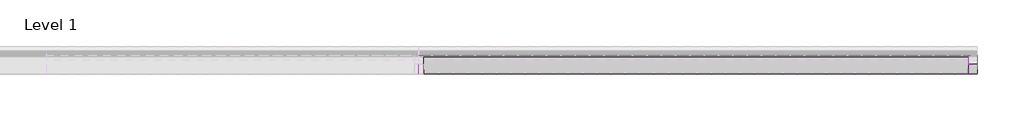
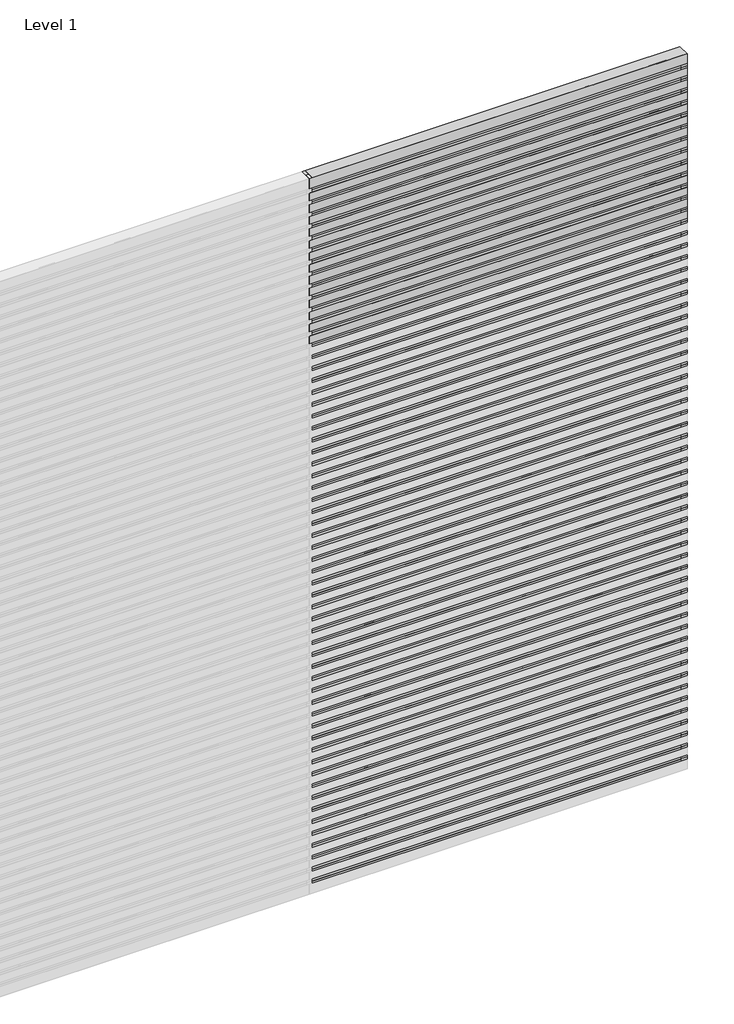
# One storey, part 4 of 4: 74 plates, 60 members.
"""IFC4 building model written with IfcOpenShell, lengths in millimetres."""

from ifc_helpers import new_model, si_unit, origin, place, context, project, spatial, transform, mapped, element, save
from components import rectangular_mullion_a3e25429, empty_system_panel_empty_03c9d606, empty_system_panel_empty_9aeebe66, empty_system_panel_empty_2f01619b

model = new_model("IFC4")

# Units and contexts
model_context = context("Model", 3, world=origin())
ifc_project = project(units=[si_unit("LENGTHUNIT", "METRE", prefix="MILLI")], contexts=[model_context])

# Site, building, storey
site = spatial("IfcSite", under=ifc_project)
building = spatial("IfcBuilding", under=site)
storey = spatial("IfcBuildingStorey", under=building, Name="Level 1", Elevation=0.0)

# Members
placement = place(None, origin())
rectangular_mullion_shape = rectangular_mullion_a3e25429(model_context)
element("IfcMember", 1, ObjectType="Rectangular Mullion : RSen_21_CWM_support profile 50x50 - right_gen_duco projects", at=placement, inside=storey, context=model_context, shape_type="MappedRepresentation", body=[
    mapped(rectangular_mullion_shape, transform((6000.0, 3000.0, 6000.0), x_axis=(1.0, 0.0, 0.0), y_axis=(0.0, 1.0, 0.0), z_axis=(0.0, 0.0, 1.0))),
])
element("IfcMember", 2, ObjectType="Rectangular Mullion : RSen_21_CWM_support profile 50x50 - right_gen_duco projects", at=placement, inside=storey, context=model_context, shape_type="MappedRepresentation", body=[
    mapped(rectangular_mullion_shape, transform((6000.0, 3000.0, 100.0), x_axis=(1.0, 0.0, 0.0), y_axis=(0.0, 1.0, 0.0), z_axis=(0.0, 0.0, 1.0))),
])
element("IfcMember", 3, ObjectType="Rectangular Mullion : RSen_21_CWM_support profile 50x50 - right_gen_duco projects", at=placement, inside=storey, context=model_context, shape_type="MappedRepresentation", body=[
    mapped(rectangular_mullion_shape, transform((6000.0, 3000.0, 200.0), x_axis=(1.0, 0.0, 0.0), y_axis=(0.0, 1.0, 0.0), z_axis=(0.0, 0.0, 1.0))),
])
element("IfcMember", 4, ObjectType="Rectangular Mullion : RSen_21_CWM_support profile 50x50 - right_gen_duco projects", at=placement, inside=storey, context=model_context, shape_type="MappedRepresentation", body=[
    mapped(rectangular_mullion_shape, transform((6000.0, 3000.0, 300.0), x_axis=(1.0, 0.0, 0.0), y_axis=(0.0, 1.0, 0.0), z_axis=(0.0, 0.0, 1.0))),
])
element("IfcMember", 5, ObjectType="Rectangular Mullion : RSen_21_CWM_support profile 50x50 - right_gen_duco projects", at=placement, inside=storey, context=model_context, shape_type="MappedRepresentation", body=[
    mapped(rectangular_mullion_shape, transform((6000.0, 3000.0, 400.0), x_axis=(1.0, 0.0, 0.0), y_axis=(0.0, 1.0, 0.0), z_axis=(0.0, 0.0, 1.0))),
])
element("IfcMember", 6, ObjectType="Rectangular Mullion : RSen_21_CWM_support profile 50x50 - right_gen_duco projects", at=placement, inside=storey, context=model_context, shape_type="MappedRepresentation", body=[
    mapped(rectangular_mullion_shape, transform((6000.0, 3000.0, 500.0), x_axis=(1.0, 0.0, 0.0), y_axis=(0.0, 1.0, 0.0), z_axis=(0.0, 0.0, 1.0))),
])
element("IfcMember", 7, ObjectType="Rectangular Mullion : RSen_21_CWM_support profile 50x50 - right_gen_duco projects", at=placement, inside=storey, context=model_context, shape_type="MappedRepresentation", body=[
    mapped(rectangular_mullion_shape, transform((6000.0, 3000.0, 600.0), x_axis=(1.0, 0.0, 0.0), y_axis=(0.0, 1.0, 0.0), z_axis=(0.0, 0.0, 1.0))),
])
element("IfcMember", 8, ObjectType="Rectangular Mullion : RSen_21_CWM_support profile 50x50 - right_gen_duco projects", at=placement, inside=storey, context=model_context, shape_type="MappedRepresentation", body=[
    mapped(rectangular_mullion_shape, transform((6000.0, 3000.0, 700.0), x_axis=(1.0, 0.0, 0.0), y_axis=(0.0, 1.0, 0.0), z_axis=(0.0, 0.0, 1.0))),
])
element("IfcMember", 9, ObjectType="Rectangular Mullion : RSen_21_CWM_support profile 50x50 - right_gen_duco projects", at=placement, inside=storey, context=model_context, shape_type="MappedRepresentation", body=[
    mapped(rectangular_mullion_shape, transform((6000.0, 3000.0, 800.0), x_axis=(1.0, 0.0, 0.0), y_axis=(0.0, 1.0, 0.0), z_axis=(0.0, 0.0, 1.0))),
])
element("IfcMember", 10, ObjectType="Rectangular Mullion : RSen_21_CWM_support profile 50x50 - right_gen_duco projects", at=placement, inside=storey, context=model_context, shape_type="MappedRepresentation", body=[
    mapped(rectangular_mullion_shape, transform((6000.0, 3000.0, 900.0), x_axis=(1.0, 0.0, 0.0), y_axis=(0.0, 1.0, 0.0), z_axis=(0.0, 0.0, 1.0))),
])
element("IfcMember", 11, ObjectType="Rectangular Mullion : RSen_21_CWM_support profile 50x50 - right_gen_duco projects", at=placement, inside=storey, context=model_context, shape_type="MappedRepresentation", body=[
    mapped(rectangular_mullion_shape, transform((6000.0, 3000.0, 1000.0), x_axis=(1.0, 0.0, 0.0), y_axis=(0.0, 1.0, 0.0), z_axis=(0.0, 0.0, 1.0))),
])
element("IfcMember", 12, ObjectType="Rectangular Mullion : RSen_21_CWM_support profile 50x50 - right_gen_duco projects", at=placement, inside=storey, context=model_context, shape_type="MappedRepresentation", body=[
    mapped(rectangular_mullion_shape, transform((6000.0, 3000.0, 1100.0), x_axis=(1.0, 0.0, 0.0), y_axis=(0.0, 1.0, 0.0), z_axis=(0.0, 0.0, 1.0))),
])
element("IfcMember", 13, ObjectType="Rectangular Mullion : RSen_21_CWM_support profile 50x50 - right_gen_duco projects", at=placement, inside=storey, context=model_context, shape_type="MappedRepresentation", body=[
    mapped(rectangular_mullion_shape, transform((6000.0, 3000.0, 1200.0), x_axis=(1.0, 0.0, 0.0), y_axis=(0.0, 1.0, 0.0), z_axis=(0.0, 0.0, 1.0))),
])
element("IfcMember", 14, ObjectType="Rectangular Mullion : RSen_21_CWM_support profile 50x50 - right_gen_duco projects", at=placement, inside=storey, context=model_context, shape_type="MappedRepresentation", body=[
    mapped(rectangular_mullion_shape, transform((6000.0, 3000.0, 1300.0), x_axis=(1.0, 0.0, 0.0), y_axis=(0.0, 1.0, 0.0), z_axis=(0.0, 0.0, 1.0))),
])
element("IfcMember", 15, ObjectType="Rectangular Mullion : RSen_21_CWM_support profile 50x50 - right_gen_duco projects", at=placement, inside=storey, context=model_context, shape_type="MappedRepresentation", body=[
    mapped(rectangular_mullion_shape, transform((6000.0, 3000.0, 1400.0), x_axis=(1.0, 0.0, 0.0), y_axis=(0.0, 1.0, 0.0), z_axis=(0.0, 0.0, 1.0))),
])
element("IfcMember", 16, ObjectType="Rectangular Mullion : RSen_21_CWM_support profile 50x50 - right_gen_duco projects", at=placement, inside=storey, context=model_context, shape_type="MappedRepresentation", body=[
    mapped(rectangular_mullion_shape, transform((6000.0, 3000.0, 1500.0), x_axis=(1.0, 0.0, 0.0), y_axis=(0.0, 1.0, 0.0), z_axis=(0.0, 0.0, 1.0))),
])
element("IfcMember", 17, ObjectType="Rectangular Mullion : RSen_21_CWM_support profile 50x50 - right_gen_duco projects", at=placement, inside=storey, context=model_context, shape_type="MappedRepresentation", body=[
    mapped(rectangular_mullion_shape, transform((6000.0, 3000.0, 1600.0), x_axis=(1.0, 0.0, 0.0), y_axis=(0.0, 1.0, 0.0), z_axis=(0.0, 0.0, 1.0))),
])
element("IfcMember", 18, ObjectType="Rectangular Mullion : RSen_21_CWM_support profile 50x50 - right_gen_duco projects", at=placement, inside=storey, context=model_context, shape_type="MappedRepresentation", body=[
    mapped(rectangular_mullion_shape, transform((6000.0, 3000.0, 1700.0), x_axis=(1.0, 0.0, 0.0), y_axis=(0.0, 1.0, 0.0), z_axis=(0.0, 0.0, 1.0))),
])
element("IfcMember", 19, ObjectType="Rectangular Mullion : RSen_21_CWM_support profile 50x50 - right_gen_duco projects", at=placement, inside=storey, context=model_context, shape_type="MappedRepresentation", body=[
    mapped(rectangular_mullion_shape, transform((6000.0, 3000.0, 1800.0), x_axis=(1.0, 0.0, 0.0), y_axis=(0.0, 1.0, 0.0), z_axis=(0.0, 0.0, 1.0))),
])
element("IfcMember", 20, ObjectType="Rectangular Mullion : RSen_21_CWM_support profile 50x50 - right_gen_duco projects", at=placement, inside=storey, context=model_context, shape_type="MappedRepresentation", body=[
    mapped(rectangular_mullion_shape, transform((6000.0, 3000.0, 1900.0), x_axis=(1.0, 0.0, 0.0), y_axis=(0.0, 1.0, 0.0), z_axis=(0.0, 0.0, 1.0))),
])
element("IfcMember", 21, ObjectType="Rectangular Mullion : RSen_21_CWM_support profile 50x50 - right_gen_duco projects", at=placement, inside=storey, context=model_context, shape_type="MappedRepresentation", body=[
    mapped(rectangular_mullion_shape, transform((6000.0, 3000.0, 2000.0), x_axis=(1.0, 0.0, 0.0), y_axis=(0.0, 1.0, 0.0), z_axis=(0.0, 0.0, 1.0))),
])
element("IfcMember", 22, ObjectType="Rectangular Mullion : RSen_21_CWM_support profile 50x50 - right_gen_duco projects", at=placement, inside=storey, context=model_context, shape_type="MappedRepresentation", body=[
    mapped(rectangular_mullion_shape, transform((6000.0, 3000.0, 2100.0), x_axis=(1.0, 0.0, 0.0), y_axis=(0.0, 1.0, 0.0), z_axis=(0.0, 0.0, 1.0))),
])
element("IfcMember", 23, ObjectType="Rectangular Mullion : RSen_21_CWM_support profile 50x50 - right_gen_duco projects", at=placement, inside=storey, context=model_context, shape_type="MappedRepresentation", body=[
    mapped(rectangular_mullion_shape, transform((6000.0, 3000.0, 2200.0), x_axis=(1.0, 0.0, 0.0), y_axis=(0.0, 1.0, 0.0), z_axis=(0.0, 0.0, 1.0))),
])
element("IfcMember", 24, ObjectType="Rectangular Mullion : RSen_21_CWM_support profile 50x50 - right_gen_duco projects", at=placement, inside=storey, context=model_context, shape_type="MappedRepresentation", body=[
    mapped(rectangular_mullion_shape, transform((6000.0, 3000.0, 2300.0), x_axis=(1.0, 0.0, 0.0), y_axis=(0.0, 1.0, 0.0), z_axis=(0.0, 0.0, 1.0))),
])
element("IfcMember", 25, ObjectType="Rectangular Mullion : RSen_21_CWM_support profile 50x50 - right_gen_duco projects", at=placement, inside=storey, context=model_context, shape_type="MappedRepresentation", body=[
    mapped(rectangular_mullion_shape, transform((6000.0, 3000.0, 2400.0), x_axis=(1.0, 0.0, 0.0), y_axis=(0.0, 1.0, 0.0), z_axis=(0.0, 0.0, 1.0))),
])
element("IfcMember", 26, ObjectType="Rectangular Mullion : RSen_21_CWM_support profile 50x50 - right_gen_duco projects", at=placement, inside=storey, context=model_context, shape_type="MappedRepresentation", body=[
    mapped(rectangular_mullion_shape, transform((6000.0, 3000.0, 2500.0), x_axis=(1.0, 0.0, 0.0), y_axis=(0.0, 1.0, 0.0), z_axis=(0.0, 0.0, 1.0))),
])
element("IfcMember", 27, ObjectType="Rectangular Mullion : RSen_21_CWM_support profile 50x50 - right_gen_duco projects", at=placement, inside=storey, context=model_context, shape_type="MappedRepresentation", body=[
    mapped(rectangular_mullion_shape, transform((6000.0, 3000.0, 2600.0), x_axis=(1.0, 0.0, 0.0), y_axis=(0.0, 1.0, 0.0), z_axis=(0.0, 0.0, 1.0))),
])
element("IfcMember", 28, ObjectType="Rectangular Mullion : RSen_21_CWM_support profile 50x50 - right_gen_duco projects", at=placement, inside=storey, context=model_context, shape_type="MappedRepresentation", body=[
    mapped(rectangular_mullion_shape, transform((6000.0, 3000.0, 2700.0), x_axis=(1.0, 0.0, 0.0), y_axis=(0.0, 1.0, 0.0), z_axis=(0.0, 0.0, 1.0))),
])
element("IfcMember", 29, ObjectType="Rectangular Mullion : RSen_21_CWM_support profile 50x50 - right_gen_duco projects", at=placement, inside=storey, context=model_context, shape_type="MappedRepresentation", body=[
    mapped(rectangular_mullion_shape, transform((6000.0, 3000.0, 2800.0), x_axis=(1.0, 0.0, 0.0), y_axis=(0.0, 1.0, 0.0), z_axis=(0.0, 0.0, 1.0))),
])
element("IfcMember", 30, ObjectType="Rectangular Mullion : RSen_21_CWM_support profile 50x50 - right_gen_duco projects", at=placement, inside=storey, context=model_context, shape_type="MappedRepresentation", body=[
    mapped(rectangular_mullion_shape, transform((6000.0, 3000.0, 2900.0), x_axis=(1.0, 0.0, 0.0), y_axis=(0.0, 1.0, 0.0), z_axis=(0.0, 0.0, 1.0))),
])
element("IfcMember", 31, ObjectType="Rectangular Mullion : RSen_21_CWM_support profile 50x50 - right_gen_duco projects", at=placement, inside=storey, context=model_context, shape_type="MappedRepresentation", body=[
    mapped(rectangular_mullion_shape, transform((6000.0, 3000.0, 3000.0), x_axis=(1.0, 0.0, 0.0), y_axis=(0.0, 1.0, 0.0), z_axis=(0.0, 0.0, 1.0))),
])
element("IfcMember", 32, ObjectType="Rectangular Mullion : RSen_21_CWM_support profile 50x50 - right_gen_duco projects", at=placement, inside=storey, context=model_context, shape_type="MappedRepresentation", body=[
    mapped(rectangular_mullion_shape, transform((6000.0, 3000.0, 3100.0), x_axis=(1.0, 0.0, 0.0), y_axis=(0.0, 1.0, 0.0), z_axis=(0.0, 0.0, 1.0))),
])
element("IfcMember", 33, ObjectType="Rectangular Mullion : RSen_21_CWM_support profile 50x50 - right_gen_duco projects", at=placement, inside=storey, context=model_context, shape_type="MappedRepresentation", body=[
    mapped(rectangular_mullion_shape, transform((6000.0, 3000.0, 3200.0), x_axis=(1.0, 0.0, 0.0), y_axis=(0.0, 1.0, 0.0), z_axis=(0.0, 0.0, 1.0))),
])
element("IfcMember", 34, ObjectType="Rectangular Mullion : RSen_21_CWM_support profile 50x50 - right_gen_duco projects", at=placement, inside=storey, context=model_context, shape_type="MappedRepresentation", body=[
    mapped(rectangular_mullion_shape, transform((6000.0, 3000.0, 3300.0), x_axis=(1.0, 0.0, 0.0), y_axis=(0.0, 1.0, 0.0), z_axis=(0.0, 0.0, 1.0))),
])
element("IfcMember", 35, ObjectType="Rectangular Mullion : RSen_21_CWM_support profile 50x50 - right_gen_duco projects", at=placement, inside=storey, context=model_context, shape_type="MappedRepresentation", body=[
    mapped(rectangular_mullion_shape, transform((6000.0, 3000.0, 3400.0), x_axis=(1.0, 0.0, 0.0), y_axis=(0.0, 1.0, 0.0), z_axis=(0.0, 0.0, 1.0))),
])
element("IfcMember", 36, ObjectType="Rectangular Mullion : RSen_21_CWM_support profile 50x50 - right_gen_duco projects", at=placement, inside=storey, context=model_context, shape_type="MappedRepresentation", body=[
    mapped(rectangular_mullion_shape, transform((6000.0, 3000.0, 3500.0), x_axis=(1.0, 0.0, 0.0), y_axis=(0.0, 1.0, 0.0), z_axis=(0.0, 0.0, 1.0))),
])
element("IfcMember", 37, ObjectType="Rectangular Mullion : RSen_21_CWM_support profile 50x50 - right_gen_duco projects", at=placement, inside=storey, context=model_context, shape_type="MappedRepresentation", body=[
    mapped(rectangular_mullion_shape, transform((6000.0, 3000.0, 3600.0), x_axis=(1.0, 0.0, 0.0), y_axis=(0.0, 1.0, 0.0), z_axis=(0.0, 0.0, 1.0))),
])
element("IfcMember", 38, ObjectType="Rectangular Mullion : RSen_21_CWM_support profile 50x50 - right_gen_duco projects", at=placement, inside=storey, context=model_context, shape_type="MappedRepresentation", body=[
    mapped(rectangular_mullion_shape, transform((6000.0, 3000.0, 3700.0), x_axis=(1.0, 0.0, 0.0), y_axis=(0.0, 1.0, 0.0), z_axis=(0.0, 0.0, 1.0))),
])
element("IfcMember", 39, ObjectType="Rectangular Mullion : RSen_21_CWM_support profile 50x50 - right_gen_duco projects", at=placement, inside=storey, context=model_context, shape_type="MappedRepresentation", body=[
    mapped(rectangular_mullion_shape, transform((6000.0, 3000.0, 3800.0), x_axis=(1.0, 0.0, 0.0), y_axis=(0.0, 1.0, 0.0), z_axis=(0.0, 0.0, 1.0))),
])
element("IfcMember", 40, ObjectType="Rectangular Mullion : RSen_21_CWM_support profile 50x50 - right_gen_duco projects", at=placement, inside=storey, context=model_context, shape_type="MappedRepresentation", body=[
    mapped(rectangular_mullion_shape, transform((6000.0, 3000.0, 3900.0), x_axis=(1.0, 0.0, 0.0), y_axis=(0.0, 1.0, 0.0), z_axis=(0.0, 0.0, 1.0))),
])
element("IfcMember", 41, ObjectType="Rectangular Mullion : RSen_21_CWM_support profile 50x50 - right_gen_duco projects", at=placement, inside=storey, context=model_context, shape_type="MappedRepresentation", body=[
    mapped(rectangular_mullion_shape, transform((6000.0, 3000.0, 4000.0), x_axis=(1.0, 0.0, 0.0), y_axis=(0.0, 1.0, 0.0), z_axis=(0.0, 0.0, 1.0))),
])
element("IfcMember", 42, ObjectType="Rectangular Mullion : RSen_21_CWM_support profile 50x50 - right_gen_duco projects", at=placement, inside=storey, context=model_context, shape_type="MappedRepresentation", body=[
    mapped(rectangular_mullion_shape, transform((6000.0, 3000.0, 4100.0), x_axis=(1.0, 0.0, 0.0), y_axis=(0.0, 1.0, 0.0), z_axis=(0.0, 0.0, 1.0))),
])
element("IfcMember", 43, ObjectType="Rectangular Mullion : RSen_21_CWM_support profile 50x50 - right_gen_duco projects", at=placement, inside=storey, context=model_context, shape_type="MappedRepresentation", body=[
    mapped(rectangular_mullion_shape, transform((6000.0, 3000.0, 4200.0), x_axis=(1.0, 0.0, 0.0), y_axis=(0.0, 1.0, 0.0), z_axis=(0.0, 0.0, 1.0))),
])
element("IfcMember", 44, ObjectType="Rectangular Mullion : RSen_21_CWM_support profile 50x50 - right_gen_duco projects", at=placement, inside=storey, context=model_context, shape_type="MappedRepresentation", body=[
    mapped(rectangular_mullion_shape, transform((6000.0, 3000.0, 4300.0), x_axis=(1.0, 0.0, 0.0), y_axis=(0.0, 1.0, 0.0), z_axis=(0.0, 0.0, 1.0))),
])
element("IfcMember", 45, ObjectType="Rectangular Mullion : RSen_21_CWM_support profile 50x50 - right_gen_duco projects", at=placement, inside=storey, context=model_context, shape_type="MappedRepresentation", body=[
    mapped(rectangular_mullion_shape, transform((6000.0, 3000.0, 4400.0), x_axis=(1.0, 0.0, 0.0), y_axis=(0.0, 1.0, 0.0), z_axis=(0.0, 0.0, 1.0))),
])
element("IfcMember", 46, ObjectType="Rectangular Mullion : RSen_21_CWM_support profile 50x50 - right_gen_duco projects", at=placement, inside=storey, context=model_context, shape_type="MappedRepresentation", body=[
    mapped(rectangular_mullion_shape, transform((6000.0, 3000.0, 4500.0), x_axis=(1.0, 0.0, 0.0), y_axis=(0.0, 1.0, 0.0), z_axis=(0.0, 0.0, 1.0))),
])
element("IfcMember", 47, ObjectType="Rectangular Mullion : RSen_21_CWM_support profile 50x50 - right_gen_duco projects", at=placement, inside=storey, context=model_context, shape_type="MappedRepresentation", body=[
    mapped(rectangular_mullion_shape, transform((6000.0, 3000.0, 4600.0), x_axis=(1.0, 0.0, 0.0), y_axis=(0.0, 1.0, 0.0), z_axis=(0.0, 0.0, 1.0))),
])
element("IfcMember", 48, ObjectType="Rectangular Mullion : RSen_21_CWM_support profile 50x50 - right_gen_duco projects", at=placement, inside=storey, context=model_context, shape_type="MappedRepresentation", body=[
    mapped(rectangular_mullion_shape, transform((6000.0, 3000.0, 4700.0), x_axis=(1.0, 0.0, 0.0), y_axis=(0.0, 1.0, 0.0), z_axis=(0.0, 0.0, 1.0))),
])
element("IfcMember", 49, ObjectType="Rectangular Mullion : RSen_21_CWM_support profile 50x50 - right_gen_duco projects", at=placement, inside=storey, context=model_context, shape_type="MappedRepresentation", body=[
    mapped(rectangular_mullion_shape, transform((6000.0, 3000.0, 4800.0), x_axis=(1.0, 0.0, 0.0), y_axis=(0.0, 1.0, 0.0), z_axis=(0.0, 0.0, 1.0))),
])
element("IfcMember", 50, ObjectType="Rectangular Mullion : RSen_21_CWM_support profile 50x50 - right_gen_duco projects", at=placement, inside=storey, context=model_context, shape_type="MappedRepresentation", body=[
    mapped(rectangular_mullion_shape, transform((6000.0, 3000.0, 4900.0), x_axis=(1.0, 0.0, 0.0), y_axis=(0.0, 1.0, 0.0), z_axis=(0.0, 0.0, 1.0))),
])
element("IfcMember", 51, ObjectType="Rectangular Mullion : RSen_21_CWM_support profile 50x50 - right_gen_duco projects", at=placement, inside=storey, context=model_context, shape_type="MappedRepresentation", body=[
    mapped(rectangular_mullion_shape, transform((6000.0, 3000.0, 5000.0), x_axis=(1.0, 0.0, 0.0), y_axis=(0.0, 1.0, 0.0), z_axis=(0.0, 0.0, 1.0))),
])
element("IfcMember", 52, ObjectType="Rectangular Mullion : RSen_21_CWM_support profile 50x50 - right_gen_duco projects", at=placement, inside=storey, context=model_context, shape_type="MappedRepresentation", body=[
    mapped(rectangular_mullion_shape, transform((6000.0, 3000.0, 5100.0), x_axis=(1.0, 0.0, 0.0), y_axis=(0.0, 1.0, 0.0), z_axis=(0.0, 0.0, 1.0))),
])
element("IfcMember", 53, ObjectType="Rectangular Mullion : RSen_21_CWM_support profile 50x50 - right_gen_duco projects", at=placement, inside=storey, context=model_context, shape_type="MappedRepresentation", body=[
    mapped(rectangular_mullion_shape, transform((6000.0, 3000.0, 5200.0), x_axis=(1.0, 0.0, 0.0), y_axis=(0.0, 1.0, 0.0), z_axis=(0.0, 0.0, 1.0))),
])
element("IfcMember", 54, ObjectType="Rectangular Mullion : RSen_21_CWM_support profile 50x50 - right_gen_duco projects", at=placement, inside=storey, context=model_context, shape_type="MappedRepresentation", body=[
    mapped(rectangular_mullion_shape, transform((6000.0, 3000.0, 5300.0), x_axis=(1.0, 0.0, 0.0), y_axis=(0.0, 1.0, 0.0), z_axis=(0.0, 0.0, 1.0))),
])
element("IfcMember", 55, ObjectType="Rectangular Mullion : RSen_21_CWM_support profile 50x50 - right_gen_duco projects", at=placement, inside=storey, context=model_context, shape_type="MappedRepresentation", body=[
    mapped(rectangular_mullion_shape, transform((6000.0, 3000.0, 5400.0), x_axis=(1.0, 0.0, 0.0), y_axis=(0.0, 1.0, 0.0), z_axis=(0.0, 0.0, 1.0))),
])
element("IfcMember", 56, ObjectType="Rectangular Mullion : RSen_21_CWM_support profile 50x50 - right_gen_duco projects", at=placement, inside=storey, context=model_context, shape_type="MappedRepresentation", body=[
    mapped(rectangular_mullion_shape, transform((6000.0, 3000.0, 5500.0), x_axis=(1.0, 0.0, 0.0), y_axis=(0.0, 1.0, 0.0), z_axis=(0.0, 0.0, 1.0))),
])
element("IfcMember", 57, ObjectType="Rectangular Mullion : RSen_21_CWM_support profile 50x50 - right_gen_duco projects", at=placement, inside=storey, context=model_context, shape_type="MappedRepresentation", body=[
    mapped(rectangular_mullion_shape, transform((6000.0, 3000.0, 5600.0), x_axis=(1.0, 0.0, 0.0), y_axis=(0.0, 1.0, 0.0), z_axis=(0.0, 0.0, 1.0))),
])
element("IfcMember", 58, ObjectType="Rectangular Mullion : RSen_21_CWM_support profile 50x50 - right_gen_duco projects", at=placement, inside=storey, context=model_context, shape_type="MappedRepresentation", body=[
    mapped(rectangular_mullion_shape, transform((6000.0, 3000.0, 5700.0), x_axis=(1.0, 0.0, 0.0), y_axis=(0.0, 1.0, 0.0), z_axis=(0.0, 0.0, 1.0))),
])
element("IfcMember", 59, ObjectType="Rectangular Mullion : RSen_21_CWM_support profile 50x50 - right_gen_duco projects", at=placement, inside=storey, context=model_context, shape_type="MappedRepresentation", body=[
    mapped(rectangular_mullion_shape, transform((6000.0, 3000.0, 5800.0), x_axis=(1.0, 0.0, 0.0), y_axis=(0.0, 1.0, 0.0), z_axis=(0.0, 0.0, 1.0))),
])
element("IfcMember", 60, ObjectType="Rectangular Mullion : RSen_21_CWM_support profile 50x50 - right_gen_duco projects", at=placement, inside=storey, context=model_context, shape_type="MappedRepresentation", body=[
    mapped(rectangular_mullion_shape, transform((6000.0, 3000.0, 5900.0), x_axis=(1.0, 0.0, 0.0), y_axis=(0.0, 1.0, 0.0), z_axis=(0.0, 0.0, 1.0))),
])

# Plates
empty_system_panel_empty_shape = empty_system_panel_empty_03c9d606(model_context)
element("IfcPlate", 61, ObjectType="Empty System Panel : Empty", at=placement, inside=storey, context=model_context, shape_type="MappedRepresentation", body=[
    mapped(empty_system_panel_empty_shape, transform((4500.0, 3000.0, 5918.3847763), x_axis=(-1.0, 0.0, 0.0), y_axis=(0.0, -1.0, 0.0), z_axis=(0.0, 0.0, 1.0))),
])
empty_system_panel_empty_2_shape = empty_system_panel_empty_9aeebe66(model_context)
element("IfcPlate", 62, ObjectType="Empty System Panel : Empty", at=placement, inside=storey, context=model_context, shape_type="MappedRepresentation", body=[
    mapped(empty_system_panel_empty_2_shape, transform((4500.0, 3000.0, 4618.3847763), x_axis=(-1.0, 0.0, 0.0), y_axis=(0.0, -1.0, 0.0), z_axis=(0.0, 0.0, 1.0))),
])
element("IfcPlate", 63, ObjectType="Empty System Panel : Empty", at=placement, inside=storey, context=model_context, shape_type="MappedRepresentation", body=[
    mapped(empty_system_panel_empty_2_shape, transform((4500.0, 3000.0, 4718.3847763), x_axis=(-1.0, 0.0, 0.0), y_axis=(0.0, -1.0, 0.0), z_axis=(0.0, 0.0, 1.0))),
])
element("IfcPlate", 64, ObjectType="Empty System Panel : Empty", at=placement, inside=storey, context=model_context, shape_type="MappedRepresentation", body=[
    mapped(empty_system_panel_empty_2_shape, transform((4500.0, 3000.0, 4818.3847763), x_axis=(-1.0, 0.0, 0.0), y_axis=(0.0, -1.0, 0.0), z_axis=(0.0, 0.0, 1.0))),
])
element("IfcPlate", 65, ObjectType="Empty System Panel : Empty", at=placement, inside=storey, context=model_context, shape_type="MappedRepresentation", body=[
    mapped(empty_system_panel_empty_2_shape, transform((4500.0, 3000.0, 4918.3847763), x_axis=(-1.0, 0.0, 0.0), y_axis=(0.0, -1.0, 0.0), z_axis=(0.0, 0.0, 1.0))),
])
element("IfcPlate", 66, ObjectType="Empty System Panel : Empty", at=placement, inside=storey, context=model_context, shape_type="MappedRepresentation", body=[
    mapped(empty_system_panel_empty_2_shape, transform((4500.0, 3000.0, 5018.3847763), x_axis=(-1.0, 0.0, 0.0), y_axis=(0.0, -1.0, 0.0), z_axis=(0.0, 0.0, 1.0))),
])
element("IfcPlate", 67, ObjectType="Empty System Panel : Empty", at=placement, inside=storey, context=model_context, shape_type="MappedRepresentation", body=[
    mapped(empty_system_panel_empty_2_shape, transform((4500.0, 3000.0, 5118.3847763), x_axis=(-1.0, 0.0, 0.0), y_axis=(0.0, -1.0, 0.0), z_axis=(0.0, 0.0, 1.0))),
])
element("IfcPlate", 68, ObjectType="Empty System Panel : Empty", at=placement, inside=storey, context=model_context, shape_type="MappedRepresentation", body=[
    mapped(empty_system_panel_empty_2_shape, transform((4500.0, 3000.0, 5218.3847763), x_axis=(-1.0, 0.0, 0.0), y_axis=(0.0, -1.0, 0.0), z_axis=(0.0, 0.0, 1.0))),
])
element("IfcPlate", 69, ObjectType="Empty System Panel : Empty", at=placement, inside=storey, context=model_context, shape_type="MappedRepresentation", body=[
    mapped(empty_system_panel_empty_2_shape, transform((4500.0, 3000.0, 5318.3847763), x_axis=(-1.0, 0.0, 0.0), y_axis=(0.0, -1.0, 0.0), z_axis=(0.0, 0.0, 1.0))),
])
element("IfcPlate", 70, ObjectType="Empty System Panel : Empty", at=placement, inside=storey, context=model_context, shape_type="MappedRepresentation", body=[
    mapped(empty_system_panel_empty_2_shape, transform((4500.0, 3000.0, 5418.3847763), x_axis=(-1.0, 0.0, 0.0), y_axis=(0.0, -1.0, 0.0), z_axis=(0.0, 0.0, 1.0))),
])
element("IfcPlate", 71, ObjectType="Empty System Panel : Empty", at=placement, inside=storey, context=model_context, shape_type="MappedRepresentation", body=[
    mapped(empty_system_panel_empty_2_shape, transform((4500.0, 3000.0, 5518.3847763), x_axis=(-1.0, 0.0, 0.0), y_axis=(0.0, -1.0, 0.0), z_axis=(0.0, 0.0, 1.0))),
])
element("IfcPlate", 72, ObjectType="Empty System Panel : Empty", at=placement, inside=storey, context=model_context, shape_type="MappedRepresentation", body=[
    mapped(empty_system_panel_empty_2_shape, transform((4500.0, 3000.0, 5618.3847763), x_axis=(-1.0, 0.0, 0.0), y_axis=(0.0, -1.0, 0.0), z_axis=(0.0, 0.0, 1.0))),
])
element("IfcPlate", 73, ObjectType="Empty System Panel : Empty", at=placement, inside=storey, context=model_context, shape_type="MappedRepresentation", body=[
    mapped(empty_system_panel_empty_2_shape, transform((4500.0, 3000.0, 5718.3847763), x_axis=(-1.0, 0.0, 0.0), y_axis=(0.0, -1.0, 0.0), z_axis=(0.0, 0.0, 1.0))),
])
element("IfcPlate", 74, ObjectType="Empty System Panel : Empty", at=placement, inside=storey, context=model_context, shape_type="MappedRepresentation", body=[
    mapped(empty_system_panel_empty_2_shape, transform((4500.0, 3000.0, 5818.3847763), x_axis=(-1.0, 0.0, 0.0), y_axis=(0.0, -1.0, 0.0), z_axis=(0.0, 0.0, 1.0))),
])
empty_system_panel_empty_3_shape = empty_system_panel_empty_2f01619b(model_context)
element("IfcPlate", 75, ObjectType="Empty System Panel : Empty", at=placement, inside=storey, context=model_context, shape_type="MappedRepresentation", body=[
    mapped(empty_system_panel_empty_3_shape, transform((4487.5, 3000.0, 0.0), x_axis=(-1.0, 0.0, 0.0), y_axis=(0.0, -1.0, 0.0), z_axis=(0.0, 0.0, 1.0))),
])
element("IfcPlate", 76, ObjectType="Empty System Panel : Empty", at=placement, inside=storey, context=model_context, shape_type="MappedRepresentation", body=[
    mapped(empty_system_panel_empty_3_shape, transform((4487.5, 3000.0, 100.0), x_axis=(-1.0, 0.0, 0.0), y_axis=(0.0, -1.0, 0.0), z_axis=(0.0, 0.0, 1.0))),
])
element("IfcPlate", 77, ObjectType="Empty System Panel : Empty", at=placement, inside=storey, context=model_context, shape_type="MappedRepresentation", body=[
    mapped(empty_system_panel_empty_3_shape, transform((4487.5, 3000.0, 200.0), x_axis=(-1.0, 0.0, 0.0), y_axis=(0.0, -1.0, 0.0), z_axis=(0.0, 0.0, 1.0))),
])
element("IfcPlate", 78, ObjectType="Empty System Panel : Empty", at=placement, inside=storey, context=model_context, shape_type="MappedRepresentation", body=[
    mapped(empty_system_panel_empty_3_shape, transform((4487.5, 3000.0, 300.0), x_axis=(-1.0, 0.0, 0.0), y_axis=(0.0, -1.0, 0.0), z_axis=(0.0, 0.0, 1.0))),
])
element("IfcPlate", 79, ObjectType="Empty System Panel : Empty", at=placement, inside=storey, context=model_context, shape_type="MappedRepresentation", body=[
    mapped(empty_system_panel_empty_3_shape, transform((4487.5, 3000.0, 400.0), x_axis=(-1.0, 0.0, 0.0), y_axis=(0.0, -1.0, 0.0), z_axis=(0.0, 0.0, 1.0))),
])
element("IfcPlate", 80, ObjectType="Empty System Panel : Empty", at=placement, inside=storey, context=model_context, shape_type="MappedRepresentation", body=[
    mapped(empty_system_panel_empty_3_shape, transform((4487.5, 3000.0, 500.0), x_axis=(-1.0, 0.0, 0.0), y_axis=(0.0, -1.0, 0.0), z_axis=(0.0, 0.0, 1.0))),
])
element("IfcPlate", 81, ObjectType="Empty System Panel : Empty", at=placement, inside=storey, context=model_context, shape_type="MappedRepresentation", body=[
    mapped(empty_system_panel_empty_3_shape, transform((4487.5, 3000.0, 600.0), x_axis=(-1.0, 0.0, 0.0), y_axis=(0.0, -1.0, 0.0), z_axis=(0.0, 0.0, 1.0))),
])
element("IfcPlate", 82, ObjectType="Empty System Panel : Empty", at=placement, inside=storey, context=model_context, shape_type="MappedRepresentation", body=[
    mapped(empty_system_panel_empty_3_shape, transform((4487.5, 3000.0, 700.0), x_axis=(-1.0, 0.0, 0.0), y_axis=(0.0, -1.0, 0.0), z_axis=(0.0, 0.0, 1.0))),
])
element("IfcPlate", 83, ObjectType="Empty System Panel : Empty", at=placement, inside=storey, context=model_context, shape_type="MappedRepresentation", body=[
    mapped(empty_system_panel_empty_3_shape, transform((4487.5, 3000.0, 800.0), x_axis=(-1.0, 0.0, 0.0), y_axis=(0.0, -1.0, 0.0), z_axis=(0.0, 0.0, 1.0))),
])
element("IfcPlate", 84, ObjectType="Empty System Panel : Empty", at=placement, inside=storey, context=model_context, shape_type="MappedRepresentation", body=[
    mapped(empty_system_panel_empty_3_shape, transform((4487.5, 3000.0, 900.0), x_axis=(-1.0, 0.0, 0.0), y_axis=(0.0, -1.0, 0.0), z_axis=(0.0, 0.0, 1.0))),
])
element("IfcPlate", 85, ObjectType="Empty System Panel : Empty", at=placement, inside=storey, context=model_context, shape_type="MappedRepresentation", body=[
    mapped(empty_system_panel_empty_3_shape, transform((4487.5, 3000.0, 1000.0), x_axis=(-1.0, 0.0, 0.0), y_axis=(0.0, -1.0, 0.0), z_axis=(0.0, 0.0, 1.0))),
])
element("IfcPlate", 86, ObjectType="Empty System Panel : Empty", at=placement, inside=storey, context=model_context, shape_type="MappedRepresentation", body=[
    mapped(empty_system_panel_empty_3_shape, transform((4487.5, 3000.0, 1100.0), x_axis=(-1.0, 0.0, 0.0), y_axis=(0.0, -1.0, 0.0), z_axis=(0.0, 0.0, 1.0))),
])
element("IfcPlate", 87, ObjectType="Empty System Panel : Empty", at=placement, inside=storey, context=model_context, shape_type="MappedRepresentation", body=[
    mapped(empty_system_panel_empty_3_shape, transform((4487.5, 3000.0, 1200.0), x_axis=(-1.0, 0.0, 0.0), y_axis=(0.0, -1.0, 0.0), z_axis=(0.0, 0.0, 1.0))),
])
element("IfcPlate", 88, ObjectType="Empty System Panel : Empty", at=placement, inside=storey, context=model_context, shape_type="MappedRepresentation", body=[
    mapped(empty_system_panel_empty_3_shape, transform((4487.5, 3000.0, 1300.0), x_axis=(-1.0, 0.0, 0.0), y_axis=(0.0, -1.0, 0.0), z_axis=(0.0, 0.0, 1.0))),
])
element("IfcPlate", 89, ObjectType="Empty System Panel : Empty", at=placement, inside=storey, context=model_context, shape_type="MappedRepresentation", body=[
    mapped(empty_system_panel_empty_3_shape, transform((4487.5, 3000.0, 1400.0), x_axis=(-1.0, 0.0, 0.0), y_axis=(0.0, -1.0, 0.0), z_axis=(0.0, 0.0, 1.0))),
])
element("IfcPlate", 90, ObjectType="Empty System Panel : Empty", at=placement, inside=storey, context=model_context, shape_type="MappedRepresentation", body=[
    mapped(empty_system_panel_empty_3_shape, transform((4487.5, 3000.0, 1500.0), x_axis=(-1.0, 0.0, 0.0), y_axis=(0.0, -1.0, 0.0), z_axis=(0.0, 0.0, 1.0))),
])
element("IfcPlate", 91, ObjectType="Empty System Panel : Empty", at=placement, inside=storey, context=model_context, shape_type="MappedRepresentation", body=[
    mapped(empty_system_panel_empty_3_shape, transform((4487.5, 3000.0, 1600.0), x_axis=(-1.0, 0.0, 0.0), y_axis=(0.0, -1.0, 0.0), z_axis=(0.0, 0.0, 1.0))),
])
element("IfcPlate", 92, ObjectType="Empty System Panel : Empty", at=placement, inside=storey, context=model_context, shape_type="MappedRepresentation", body=[
    mapped(empty_system_panel_empty_3_shape, transform((4487.5, 3000.0, 1700.0), x_axis=(-1.0, 0.0, 0.0), y_axis=(0.0, -1.0, 0.0), z_axis=(0.0, 0.0, 1.0))),
])
element("IfcPlate", 93, ObjectType="Empty System Panel : Empty", at=placement, inside=storey, context=model_context, shape_type="MappedRepresentation", body=[
    mapped(empty_system_panel_empty_3_shape, transform((4487.5, 3000.0, 1800.0), x_axis=(-1.0, 0.0, 0.0), y_axis=(0.0, -1.0, 0.0), z_axis=(0.0, 0.0, 1.0))),
])
element("IfcPlate", 94, ObjectType="Empty System Panel : Empty", at=placement, inside=storey, context=model_context, shape_type="MappedRepresentation", body=[
    mapped(empty_system_panel_empty_3_shape, transform((4487.5, 3000.0, 1900.0), x_axis=(-1.0, 0.0, 0.0), y_axis=(0.0, -1.0, 0.0), z_axis=(0.0, 0.0, 1.0))),
])
element("IfcPlate", 95, ObjectType="Empty System Panel : Empty", at=placement, inside=storey, context=model_context, shape_type="MappedRepresentation", body=[
    mapped(empty_system_panel_empty_3_shape, transform((4487.5, 3000.0, 2000.0), x_axis=(-1.0, 0.0, 0.0), y_axis=(0.0, -1.0, 0.0), z_axis=(0.0, 0.0, 1.0))),
])
element("IfcPlate", 96, ObjectType="Empty System Panel : Empty", at=placement, inside=storey, context=model_context, shape_type="MappedRepresentation", body=[
    mapped(empty_system_panel_empty_3_shape, transform((4487.5, 3000.0, 2100.0), x_axis=(-1.0, 0.0, 0.0), y_axis=(0.0, -1.0, 0.0), z_axis=(0.0, 0.0, 1.0))),
])
element("IfcPlate", 97, ObjectType="Empty System Panel : Empty", at=placement, inside=storey, context=model_context, shape_type="MappedRepresentation", body=[
    mapped(empty_system_panel_empty_3_shape, transform((4487.5, 3000.0, 2200.0), x_axis=(-1.0, 0.0, 0.0), y_axis=(0.0, -1.0, 0.0), z_axis=(0.0, 0.0, 1.0))),
])
element("IfcPlate", 98, ObjectType="Empty System Panel : Empty", at=placement, inside=storey, context=model_context, shape_type="MappedRepresentation", body=[
    mapped(empty_system_panel_empty_3_shape, transform((4487.5, 3000.0, 2300.0), x_axis=(-1.0, 0.0, 0.0), y_axis=(0.0, -1.0, 0.0), z_axis=(0.0, 0.0, 1.0))),
])
element("IfcPlate", 99, ObjectType="Empty System Panel : Empty", at=placement, inside=storey, context=model_context, shape_type="MappedRepresentation", body=[
    mapped(empty_system_panel_empty_3_shape, transform((4487.5, 3000.0, 2400.0), x_axis=(-1.0, 0.0, 0.0), y_axis=(0.0, -1.0, 0.0), z_axis=(0.0, 0.0, 1.0))),
])
element("IfcPlate", 100, ObjectType="Empty System Panel : Empty", at=placement, inside=storey, context=model_context, shape_type="MappedRepresentation", body=[
    mapped(empty_system_panel_empty_3_shape, transform((4487.5, 3000.0, 2500.0), x_axis=(-1.0, 0.0, 0.0), y_axis=(0.0, -1.0, 0.0), z_axis=(0.0, 0.0, 1.0))),
])
element("IfcPlate", 101, ObjectType="Empty System Panel : Empty", at=placement, inside=storey, context=model_context, shape_type="MappedRepresentation", body=[
    mapped(empty_system_panel_empty_3_shape, transform((4487.5, 3000.0, 2600.0), x_axis=(-1.0, 0.0, 0.0), y_axis=(0.0, -1.0, 0.0), z_axis=(0.0, 0.0, 1.0))),
])
element("IfcPlate", 102, ObjectType="Empty System Panel : Empty", at=placement, inside=storey, context=model_context, shape_type="MappedRepresentation", body=[
    mapped(empty_system_panel_empty_3_shape, transform((4487.5, 3000.0, 2700.0), x_axis=(-1.0, 0.0, 0.0), y_axis=(0.0, -1.0, 0.0), z_axis=(0.0, 0.0, 1.0))),
])
element("IfcPlate", 103, ObjectType="Empty System Panel : Empty", at=placement, inside=storey, context=model_context, shape_type="MappedRepresentation", body=[
    mapped(empty_system_panel_empty_3_shape, transform((4487.5, 3000.0, 2800.0), x_axis=(-1.0, 0.0, 0.0), y_axis=(0.0, -1.0, 0.0), z_axis=(0.0, 0.0, 1.0))),
])
element("IfcPlate", 104, ObjectType="Empty System Panel : Empty", at=placement, inside=storey, context=model_context, shape_type="MappedRepresentation", body=[
    mapped(empty_system_panel_empty_3_shape, transform((4487.5, 3000.0, 2900.0), x_axis=(-1.0, 0.0, 0.0), y_axis=(0.0, -1.0, 0.0), z_axis=(0.0, 0.0, 1.0))),
])
element("IfcPlate", 105, ObjectType="Empty System Panel : Empty", at=placement, inside=storey, context=model_context, shape_type="MappedRepresentation", body=[
    mapped(empty_system_panel_empty_3_shape, transform((4487.5, 3000.0, 3000.0), x_axis=(-1.0, 0.0, 0.0), y_axis=(0.0, -1.0, 0.0), z_axis=(0.0, 0.0, 1.0))),
])
element("IfcPlate", 106, ObjectType="Empty System Panel : Empty", at=placement, inside=storey, context=model_context, shape_type="MappedRepresentation", body=[
    mapped(empty_system_panel_empty_3_shape, transform((4487.5, 3000.0, 3100.0), x_axis=(-1.0, 0.0, 0.0), y_axis=(0.0, -1.0, 0.0), z_axis=(0.0, 0.0, 1.0))),
])
element("IfcPlate", 107, ObjectType="Empty System Panel : Empty", at=placement, inside=storey, context=model_context, shape_type="MappedRepresentation", body=[
    mapped(empty_system_panel_empty_3_shape, transform((4487.5, 3000.0, 3200.0), x_axis=(-1.0, 0.0, 0.0), y_axis=(0.0, -1.0, 0.0), z_axis=(0.0, 0.0, 1.0))),
])
element("IfcPlate", 108, ObjectType="Empty System Panel : Empty", at=placement, inside=storey, context=model_context, shape_type="MappedRepresentation", body=[
    mapped(empty_system_panel_empty_3_shape, transform((4487.5, 3000.0, 3300.0), x_axis=(-1.0, 0.0, 0.0), y_axis=(0.0, -1.0, 0.0), z_axis=(0.0, 0.0, 1.0))),
])
element("IfcPlate", 109, ObjectType="Empty System Panel : Empty", at=placement, inside=storey, context=model_context, shape_type="MappedRepresentation", body=[
    mapped(empty_system_panel_empty_3_shape, transform((4487.5, 3000.0, 3400.0), x_axis=(-1.0, 0.0, 0.0), y_axis=(0.0, -1.0, 0.0), z_axis=(0.0, 0.0, 1.0))),
])
element("IfcPlate", 110, ObjectType="Empty System Panel : Empty", at=placement, inside=storey, context=model_context, shape_type="MappedRepresentation", body=[
    mapped(empty_system_panel_empty_3_shape, transform((4487.5, 3000.0, 3500.0), x_axis=(-1.0, 0.0, 0.0), y_axis=(0.0, -1.0, 0.0), z_axis=(0.0, 0.0, 1.0))),
])
element("IfcPlate", 111, ObjectType="Empty System Panel : Empty", at=placement, inside=storey, context=model_context, shape_type="MappedRepresentation", body=[
    mapped(empty_system_panel_empty_3_shape, transform((4487.5, 3000.0, 3600.0), x_axis=(-1.0, 0.0, 0.0), y_axis=(0.0, -1.0, 0.0), z_axis=(0.0, 0.0, 1.0))),
])
element("IfcPlate", 112, ObjectType="Empty System Panel : Empty", at=placement, inside=storey, context=model_context, shape_type="MappedRepresentation", body=[
    mapped(empty_system_panel_empty_3_shape, transform((4487.5, 3000.0, 3700.0), x_axis=(-1.0, 0.0, 0.0), y_axis=(0.0, -1.0, 0.0), z_axis=(0.0, 0.0, 1.0))),
])
element("IfcPlate", 113, ObjectType="Empty System Panel : Empty", at=placement, inside=storey, context=model_context, shape_type="MappedRepresentation", body=[
    mapped(empty_system_panel_empty_3_shape, transform((4487.5, 3000.0, 3800.0), x_axis=(-1.0, 0.0, 0.0), y_axis=(0.0, -1.0, 0.0), z_axis=(0.0, 0.0, 1.0))),
])
element("IfcPlate", 114, ObjectType="Empty System Panel : Empty", at=placement, inside=storey, context=model_context, shape_type="MappedRepresentation", body=[
    mapped(empty_system_panel_empty_3_shape, transform((4487.5, 3000.0, 3900.0), x_axis=(-1.0, 0.0, 0.0), y_axis=(0.0, -1.0, 0.0), z_axis=(0.0, 0.0, 1.0))),
])
element("IfcPlate", 115, ObjectType="Empty System Panel : Empty", at=placement, inside=storey, context=model_context, shape_type="MappedRepresentation", body=[
    mapped(empty_system_panel_empty_3_shape, transform((4487.5, 3000.0, 4000.0), x_axis=(-1.0, 0.0, 0.0), y_axis=(0.0, -1.0, 0.0), z_axis=(0.0, 0.0, 1.0))),
])
element("IfcPlate", 116, ObjectType="Empty System Panel : Empty", at=placement, inside=storey, context=model_context, shape_type="MappedRepresentation", body=[
    mapped(empty_system_panel_empty_3_shape, transform((4487.5, 3000.0, 4100.0), x_axis=(-1.0, 0.0, 0.0), y_axis=(0.0, -1.0, 0.0), z_axis=(0.0, 0.0, 1.0))),
])
element("IfcPlate", 117, ObjectType="Empty System Panel : Empty", at=placement, inside=storey, context=model_context, shape_type="MappedRepresentation", body=[
    mapped(empty_system_panel_empty_3_shape, transform((4487.5, 3000.0, 4200.0), x_axis=(-1.0, 0.0, 0.0), y_axis=(0.0, -1.0, 0.0), z_axis=(0.0, 0.0, 1.0))),
])
element("IfcPlate", 118, ObjectType="Empty System Panel : Empty", at=placement, inside=storey, context=model_context, shape_type="MappedRepresentation", body=[
    mapped(empty_system_panel_empty_3_shape, transform((4487.5, 3000.0, 4300.0), x_axis=(-1.0, 0.0, 0.0), y_axis=(0.0, -1.0, 0.0), z_axis=(0.0, 0.0, 1.0))),
])
element("IfcPlate", 119, ObjectType="Empty System Panel : Empty", at=placement, inside=storey, context=model_context, shape_type="MappedRepresentation", body=[
    mapped(empty_system_panel_empty_3_shape, transform((4487.5, 3000.0, 4400.0), x_axis=(-1.0, 0.0, 0.0), y_axis=(0.0, -1.0, 0.0), z_axis=(0.0, 0.0, 1.0))),
])
element("IfcPlate", 120, ObjectType="Empty System Panel : Empty", at=placement, inside=storey, context=model_context, shape_type="MappedRepresentation", body=[
    mapped(empty_system_panel_empty_3_shape, transform((4487.5, 3000.0, 4500.0), x_axis=(-1.0, 0.0, 0.0), y_axis=(0.0, -1.0, 0.0), z_axis=(0.0, 0.0, 1.0))),
])
element("IfcPlate", 121, ObjectType="Empty System Panel : Empty", at=placement, inside=storey, context=model_context, shape_type="MappedRepresentation", body=[
    mapped(empty_system_panel_empty_3_shape, transform((4487.5, 3000.0, 4600.0), x_axis=(-1.0, 0.0, 0.0), y_axis=(0.0, -1.0, 0.0), z_axis=(0.0, 0.0, 1.0))),
])
element("IfcPlate", 122, ObjectType="Empty System Panel : Empty", at=placement, inside=storey, context=model_context, shape_type="MappedRepresentation", body=[
    mapped(empty_system_panel_empty_3_shape, transform((4487.5, 3000.0, 4700.0), x_axis=(-1.0, 0.0, 0.0), y_axis=(0.0, -1.0, 0.0), z_axis=(0.0, 0.0, 1.0))),
])
element("IfcPlate", 123, ObjectType="Empty System Panel : Empty", at=placement, inside=storey, context=model_context, shape_type="MappedRepresentation", body=[
    mapped(empty_system_panel_empty_3_shape, transform((4487.5, 3000.0, 4800.0), x_axis=(-1.0, 0.0, 0.0), y_axis=(0.0, -1.0, 0.0), z_axis=(0.0, 0.0, 1.0))),
])
element("IfcPlate", 124, ObjectType="Empty System Panel : Empty", at=placement, inside=storey, context=model_context, shape_type="MappedRepresentation", body=[
    mapped(empty_system_panel_empty_3_shape, transform((4487.5, 3000.0, 4900.0), x_axis=(-1.0, 0.0, 0.0), y_axis=(0.0, -1.0, 0.0), z_axis=(0.0, 0.0, 1.0))),
])
element("IfcPlate", 125, ObjectType="Empty System Panel : Empty", at=placement, inside=storey, context=model_context, shape_type="MappedRepresentation", body=[
    mapped(empty_system_panel_empty_3_shape, transform((4487.5, 3000.0, 5000.0), x_axis=(-1.0, 0.0, 0.0), y_axis=(0.0, -1.0, 0.0), z_axis=(0.0, 0.0, 1.0))),
])
element("IfcPlate", 126, ObjectType="Empty System Panel : Empty", at=placement, inside=storey, context=model_context, shape_type="MappedRepresentation", body=[
    mapped(empty_system_panel_empty_3_shape, transform((4487.5, 3000.0, 5100.0), x_axis=(-1.0, 0.0, 0.0), y_axis=(0.0, -1.0, 0.0), z_axis=(0.0, 0.0, 1.0))),
])
element("IfcPlate", 127, ObjectType="Empty System Panel : Empty", at=placement, inside=storey, context=model_context, shape_type="MappedRepresentation", body=[
    mapped(empty_system_panel_empty_3_shape, transform((4487.5, 3000.0, 5200.0), x_axis=(-1.0, 0.0, 0.0), y_axis=(0.0, -1.0, 0.0), z_axis=(0.0, 0.0, 1.0))),
])
element("IfcPlate", 128, ObjectType="Empty System Panel : Empty", at=placement, inside=storey, context=model_context, shape_type="MappedRepresentation", body=[
    mapped(empty_system_panel_empty_3_shape, transform((4487.5, 3000.0, 5300.0), x_axis=(-1.0, 0.0, 0.0), y_axis=(0.0, -1.0, 0.0), z_axis=(0.0, 0.0, 1.0))),
])
element("IfcPlate", 129, ObjectType="Empty System Panel : Empty", at=placement, inside=storey, context=model_context, shape_type="MappedRepresentation", body=[
    mapped(empty_system_panel_empty_3_shape, transform((4487.5, 3000.0, 5400.0), x_axis=(-1.0, 0.0, 0.0), y_axis=(0.0, -1.0, 0.0), z_axis=(0.0, 0.0, 1.0))),
])
element("IfcPlate", 130, ObjectType="Empty System Panel : Empty", at=placement, inside=storey, context=model_context, shape_type="MappedRepresentation", body=[
    mapped(empty_system_panel_empty_3_shape, transform((4487.5, 3000.0, 5500.0), x_axis=(-1.0, 0.0, 0.0), y_axis=(0.0, -1.0, 0.0), z_axis=(0.0, 0.0, 1.0))),
])
element("IfcPlate", 131, ObjectType="Empty System Panel : Empty", at=placement, inside=storey, context=model_context, shape_type="MappedRepresentation", body=[
    mapped(empty_system_panel_empty_3_shape, transform((4487.5, 3000.0, 5600.0), x_axis=(-1.0, 0.0, 0.0), y_axis=(0.0, -1.0, 0.0), z_axis=(0.0, 0.0, 1.0))),
])
element("IfcPlate", 132, ObjectType="Empty System Panel : Empty", at=placement, inside=storey, context=model_context, shape_type="MappedRepresentation", body=[
    mapped(empty_system_panel_empty_3_shape, transform((4487.5, 3000.0, 5700.0), x_axis=(-1.0, 0.0, 0.0), y_axis=(0.0, -1.0, 0.0), z_axis=(0.0, 0.0, 1.0))),
])
element("IfcPlate", 133, ObjectType="Empty System Panel : Empty", at=placement, inside=storey, context=model_context, shape_type="MappedRepresentation", body=[
    mapped(empty_system_panel_empty_3_shape, transform((4487.5, 3000.0, 5800.0), x_axis=(-1.0, 0.0, 0.0), y_axis=(0.0, -1.0, 0.0), z_axis=(0.0, 0.0, 1.0))),
])
element("IfcPlate", 134, ObjectType="Empty System Panel : Empty", at=placement, inside=storey, context=model_context, shape_type="MappedRepresentation", body=[
    mapped(empty_system_panel_empty_3_shape, transform((4487.5, 3000.0, 5900.0), x_axis=(-1.0, 0.0, 0.0), y_axis=(0.0, -1.0, 0.0), z_axis=(0.0, 0.0, 1.0))),
])

save(model, "model.ifc")
